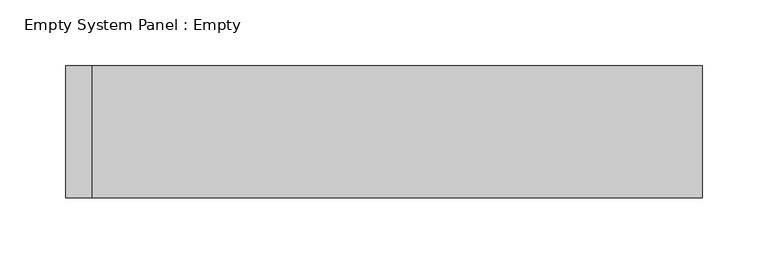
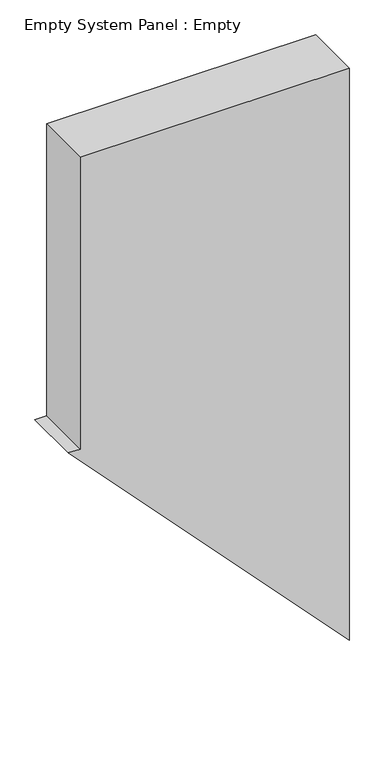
"""IFC4 building model written with IfcOpenShell, lengths in millimetres: plate geometry, Empty System Panel : Empty."""

from ifc_helpers import new_model, si_unit, frame, origin, place, context, project, spatial, polyline, outline, extrude, source, transform, mapped, element, save


def empty_system_panel_empty_6495aafc(model_context):
    return source(origin(), model_context, "Body", "SweptSolid", [
        extrude(outline(polyline([(510.177857, -241.6440778), (0.0, 241.6440778), (1041.4684956, 241.6440778), (1041.4684956, -221.6440778), (510.177857, -221.6440778), (510.177857, -241.6440778)])), frame((0.0, -50.0, 0.0), z_axis=(0.0, 1.0, 0.0), x_axis=(0.0, 0.0, 1.0)), (0.0, 0.0, 1.0), 100.0),
    ])


if __name__ == "__main__":
    model = new_model("IFC4")
    model_context = context("Model", 3, world=origin())
    ifc_project = project(units=[si_unit("LENGTHUNIT", "METRE", prefix="MILLI")], contexts=[model_context])
    site = spatial("IfcSite", under=ifc_project)
    building = spatial("IfcBuilding", under=site)
    placement = place(None, origin())
    empty_system_panel_empty_shape = empty_system_panel_empty_6495aafc(model_context)
    element("IfcPlate", 1, ObjectType="Empty System Panel : Empty", at=placement, inside=building, context=model_context, shape_type="MappedRepresentation", body=[
        mapped(empty_system_panel_empty_shape, transform((0.0, 0.0, 0.0), x_axis=(1.0, 0.0, 0.0), y_axis=(0.0, 1.0, 0.0), z_axis=(0.0, 0.0, 1.0))),
    ])
    save(model, "model.ifc")
